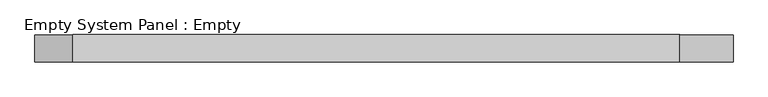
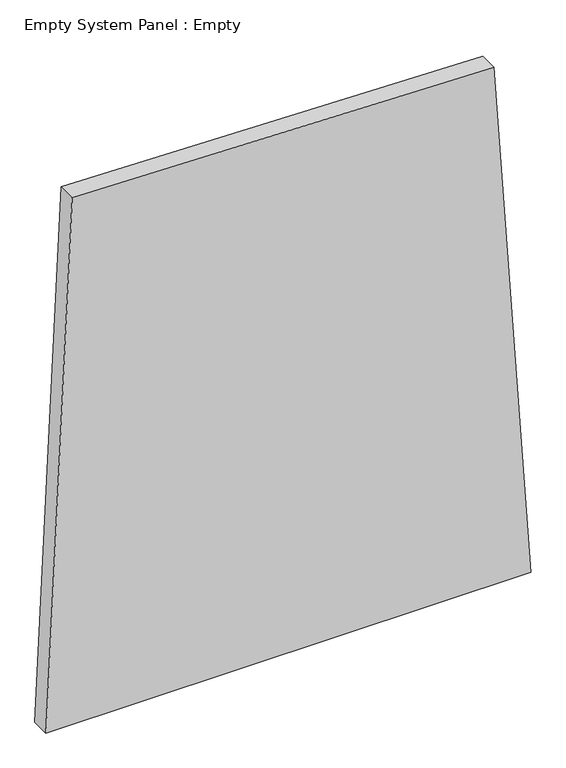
"""IFC4 building model written with IfcOpenShell, lengths in millimetres: plate geometry, Empty System Panel : Empty."""

from ifc_helpers import new_model, si_unit, frame, origin, place, context, project, spatial, polyline, outline, extrude, source, transform, mapped, element, save


def empty_system_panel_empty_97fd5b3f(model_context):
    return source(origin(), model_context, "Body", "SweptSolid", [
        extrude(outline(polyline([(0.0, -1292.3871058), (0.0, 1292.3871058), (2913.8161501, 1095.5740587), (2964.1402318, -1152.2423433), (0.0, -1292.3871058)])), frame((0.0, -50.8, 0.0), z_axis=(0.0, 1.0, 0.0), x_axis=(0.0, 0.0, 1.0)), (0.0, 0.0, 1.0), 101.6),
    ])


if __name__ == "__main__":
    model = new_model("IFC4")
    model_context = context("Model", 3, world=origin())
    ifc_project = project(units=[si_unit("LENGTHUNIT", "METRE", prefix="MILLI")], contexts=[model_context])
    site = spatial("IfcSite", under=ifc_project)
    building = spatial("IfcBuilding", under=site)
    placement = place(None, origin())
    empty_system_panel_empty_shape = empty_system_panel_empty_97fd5b3f(model_context)
    element("IfcPlate", 1, ObjectType="Empty System Panel : Empty", at=placement, inside=building, context=model_context, shape_type="MappedRepresentation", body=[
        mapped(empty_system_panel_empty_shape, transform((0.0, 0.0, 0.0), x_axis=(1.0, 0.0, 0.0), y_axis=(0.0, 1.0, 0.0), z_axis=(0.0, 0.0, 1.0))),
    ])
    save(model, "model.ifc")
